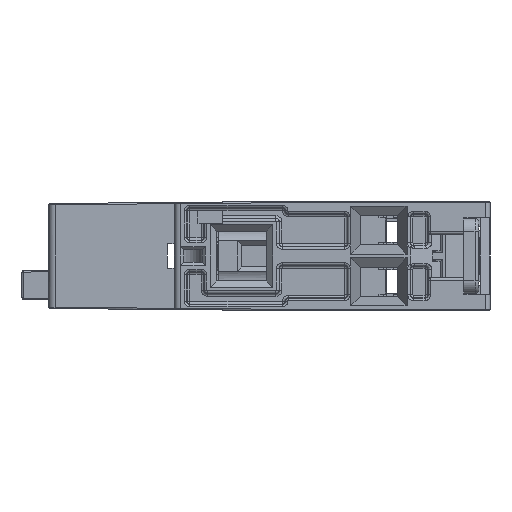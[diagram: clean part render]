
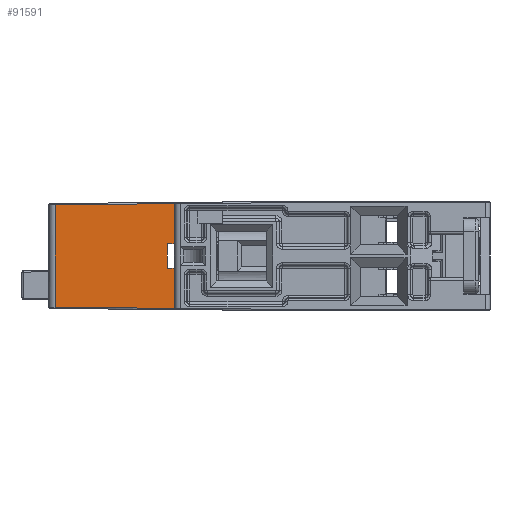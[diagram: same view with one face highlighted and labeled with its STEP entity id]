
A CAD part, left-side view. The second image highlights one B-rep face of the part: STEP entity #91591.
In plain terms, the highlighted planar face has unit normal (-1, 0.009, 0).
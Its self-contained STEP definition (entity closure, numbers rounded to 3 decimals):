
#20061 = CARTESIAN_POINT ( 'NONE',  ( -22.283, 62.909, -8.219 ) ) ;
#20062 = DIRECTION ( 'NONE',  ( 0.009, 1., 0.009 ) ) ;
#20063 = VECTOR ( 'NONE', #20062, 1000. ) ;
#20064 = CARTESIAN_POINT ( 'NONE',  ( -22.45, 43.8, -8.386 ) ) ;
#20069 = CARTESIAN_POINT ( 'NONE',  ( -22.45, 43.8, -8.386 ) ) ;
#20071 = LINE ( 'NONE', #20064, #20063 ) ;
#21221 = CARTESIAN_POINT ( 'NONE',  ( -22.45, 43.8, 8.386 ) ) ;
#21222 = DIRECTION ( 'NONE',  ( -0.009, -1., 0.009 ) ) ;
#21223 = VECTOR ( 'NONE', #21222, 1000. ) ;
#21224 = CARTESIAN_POINT ( 'NONE',  ( -22.283, 62.909, 8.219 ) ) ;
#21225 = LINE ( 'NONE', #21224, #21223 ) ;
#21232 = CARTESIAN_POINT ( 'NONE',  ( -22.283, 62.909, 8.219 ) ) ;
#21238 = DIRECTION ( 'NONE',  ( 0., 0., -1. ) ) ;
#21239 = VECTOR ( 'NONE', #21238, 1000. ) ;
#21240 = CARTESIAN_POINT ( 'NONE',  ( -22.283, 62.909, 8.219 ) ) ;
#21247 = LINE ( 'NONE', #21240, #21239 ) ;
#33113 = VERTEX_POINT ( 'NONE', #69990 ) ;
#33191 = VERTEX_POINT ( 'NONE', #70145 ) ;
#33198 = EDGE_CURVE ( 'NONE', #33204, #33191, #70133, .T. ) ;
#33204 = VERTEX_POINT ( 'NONE', #70173 ) ;
#33297 = EDGE_CURVE ( 'NONE', #33113, #33299, #70371, .T. ) ;
#33299 = VERTEX_POINT ( 'NONE', #70359 ) ;
#59407 = DIRECTION ( 'NONE',  ( 0., 0., -1. ) ) ;
#59408 = VECTOR ( 'NONE', #59407, 1000. ) ;
#59409 = CARTESIAN_POINT ( 'NONE',  ( -22.44, 44.9, 2. ) ) ;
#59410 = LINE ( 'NONE', #59409, #59408 ) ;
#59499 = FACE_OUTER_BOUND ( 'NONE', #91526, .T. ) ;
#59578 = DIRECTION ( 'NONE',  ( 0., 0., 1. ) ) ;
#59580 = DIRECTION ( 'NONE',  ( -1., 0.009, 0. ) ) ;
#59582 = CARTESIAN_POINT ( 'NONE',  ( -22.45, 43.8, -8.864 ) ) ;
#59583 = AXIS2_PLACEMENT_3D ( 'NONE', #59582, #59580, #59578 ) ;
#59586 = PLANE ( 'NONE',  #59583 ) ;
#59624 = DIRECTION ( 'NONE',  ( 0., 0., 1. ) ) ;
#59625 = VECTOR ( 'NONE', #59624, 1000. ) ;
#59627 = CARTESIAN_POINT ( 'NONE',  ( -22.45, 43.8, -8.386 ) ) ;
#59630 = LINE ( 'NONE', #59627, #59625 ) ;
#59641 = DIRECTION ( 'NONE',  ( 0., 0., 1. ) ) ;
#59642 = VECTOR ( 'NONE', #59641, 1000. ) ;
#59645 = CARTESIAN_POINT ( 'NONE',  ( -22.45, 43.8, 2. ) ) ;
#59646 = LINE ( 'NONE', #59645, #59642 ) ;
#69990 = CARTESIAN_POINT ( 'NONE',  ( -22.45, 43.8, 2. ) ) ;
#70130 = DIRECTION ( 'NONE',  ( 0.009, 1., 0. ) ) ;
#70131 = VECTOR ( 'NONE', #70130, 1000. ) ;
#70132 = CARTESIAN_POINT ( 'NONE',  ( -22.45, 43.8, -2. ) ) ;
#70133 = LINE ( 'NONE', #70132, #70131 ) ;
#70145 = CARTESIAN_POINT ( 'NONE',  ( -22.44, 44.9, -2. ) ) ;
#70173 = CARTESIAN_POINT ( 'NONE',  ( -22.45, 43.8, -2. ) ) ;
#70359 = CARTESIAN_POINT ( 'NONE',  ( -22.44, 44.9, 2. ) ) ;
#70368 = DIRECTION ( 'NONE',  ( 0.009, 1., 0. ) ) ;
#70369 = VECTOR ( 'NONE', #70368, 1000. ) ;
#70370 = CARTESIAN_POINT ( 'NONE',  ( -22.45, 43.8, 2. ) ) ;
#70371 = LINE ( 'NONE', #70370, #70369 ) ;
#75937 = VERTEX_POINT ( 'NONE', #20069 ) ;
#75942 = EDGE_CURVE ( 'NONE', #75937, #75943, #20071, .T. ) ;
#75943 = VERTEX_POINT ( 'NONE', #20061 ) ;
#76503 = EDGE_CURVE ( 'NONE', #76509, #75943, #21247, .T. ) ;
#76509 = VERTEX_POINT ( 'NONE', #21232 ) ;
#76513 = EDGE_CURVE ( 'NONE', #76509, #76514, #21225, .T. ) ;
#76514 = VERTEX_POINT ( 'NONE', #21221 ) ;
#91520 = EDGE_CURVE ( 'NONE', #33299, #33191, #59410, .T. ) ;
#91526 = EDGE_LOOP ( 'NONE', ( #91594, #91599, #91606, #91609, #91611, #91613, #91619, #91673 ) ) ;
#91591 = ADVANCED_FACE ( 'NONE', ( #59499 ), #59586, .T. ) ;
#91594 = ORIENTED_EDGE ( 'NONE', *, *, #33297, .F. ) ;
#91599 = ORIENTED_EDGE ( 'NONE', *, *, #91604, .T. ) ;
#91604 = EDGE_CURVE ( 'NONE', #33113, #76514, #59646, .T. ) ;
#91606 = ORIENTED_EDGE ( 'NONE', *, *, #76513, .F. ) ;
#91609 = ORIENTED_EDGE ( 'NONE', *, *, #76503, .T. ) ;
#91611 = ORIENTED_EDGE ( 'NONE', *, *, #75942, .F. ) ;
#91613 = ORIENTED_EDGE ( 'NONE', *, *, #91614, .T. ) ;
#91614 = EDGE_CURVE ( 'NONE', #75937, #33204, #59630, .T. ) ;
#91619 = ORIENTED_EDGE ( 'NONE', *, *, #33198, .T. ) ;
#91673 = ORIENTED_EDGE ( 'NONE', *, *, #91520, .F. ) ;
